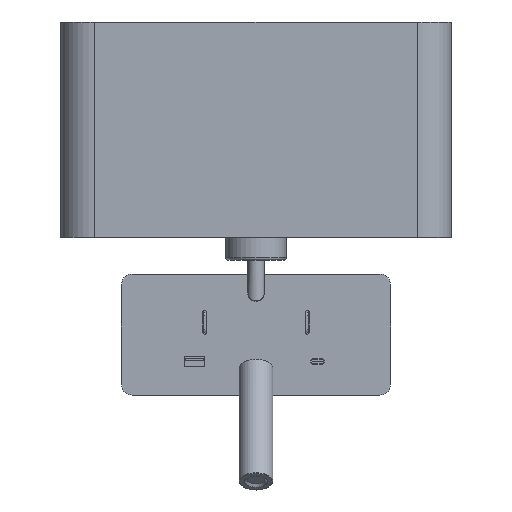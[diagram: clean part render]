
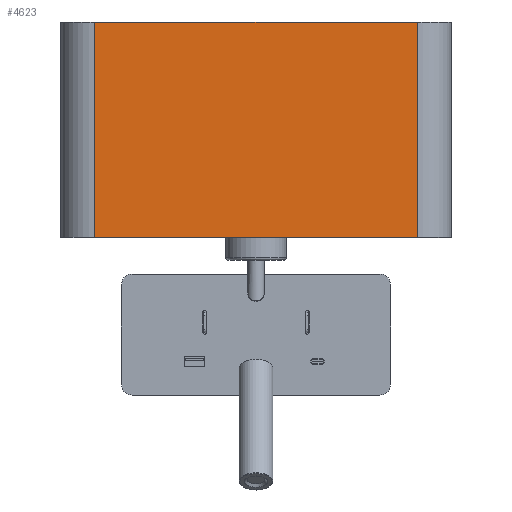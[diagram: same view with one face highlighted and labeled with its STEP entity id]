
A CAD part, top view. The second image highlights one B-rep face of the part: STEP entity #4623.
In plain terms, the highlighted planar face has unit normal (0, 0, 1).
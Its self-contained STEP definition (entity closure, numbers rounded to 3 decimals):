
#13 = CARTESIAN_POINT ( 'NONE',  ( 120., 20., 90. ) ) ;
#125 = VERTEX_POINT ( 'NONE', #2410 ) ;
#126 = LINE ( 'NONE', #1656, #3259 ) ;
#335 = ORIENTED_EDGE ( 'NONE', *, *, #4260, .T. ) ;
#526 = DIRECTION ( 'NONE',  ( 0., 1., 0. ) ) ;
#1038 = DIRECTION ( 'NONE',  ( 0., 1., 0. ) ) ;
#1046 = DIRECTION ( 'NONE',  ( 0., 0., 1. ) ) ;
#1321 = AXIS2_PLACEMENT_3D ( 'NONE', #4062, #1046, #2484 ) ;
#1489 = EDGE_LOOP ( 'NONE', ( #3698, #4811, #335, #1739 ) ) ;
#1656 = CARTESIAN_POINT ( 'NONE',  ( -120., -140., 90. ) ) ;
#1658 = DIRECTION ( 'NONE',  ( 1., 0., 0. ) ) ;
#1739 = ORIENTED_EDGE ( 'NONE', *, *, #2785, .T. ) ;
#2038 = CARTESIAN_POINT ( 'NONE',  ( -120., 20., 90. ) ) ;
#2067 = EDGE_CURVE ( 'NONE', #125, #4849, #4392, .T. ) ;
#2410 = CARTESIAN_POINT ( 'NONE',  ( -120., 20., 90. ) ) ;
#2421 = VERTEX_POINT ( 'NONE', #2915 ) ;
#2484 = DIRECTION ( 'NONE',  ( 1., 0., 0. ) ) ;
#2785 = EDGE_CURVE ( 'NONE', #4234, #4849, #3703, .T. ) ;
#2915 = CARTESIAN_POINT ( 'NONE',  ( -120., -140., 90. ) ) ;
#3219 = DIRECTION ( 'NONE',  ( 1., 0., 0. ) ) ;
#3259 = VECTOR ( 'NONE', #526, 1000. ) ;
#3435 = VECTOR ( 'NONE', #1038, 1000. ) ;
#3522 = LINE ( 'NONE', #3913, #4914 ) ;
#3556 = EDGE_CURVE ( 'NONE', #2421, #125, #126, .T. ) ;
#3698 = ORIENTED_EDGE ( 'NONE', *, *, #2067, .F. ) ;
#3703 = LINE ( 'NONE', #4079, #3435 ) ;
#3913 = CARTESIAN_POINT ( 'NONE',  ( -120., -140., 90. ) ) ;
#4031 = FACE_OUTER_BOUND ( 'NONE', #1489, .T. ) ;
#4062 = CARTESIAN_POINT ( 'NONE',  ( -120., -140., 90. ) ) ;
#4079 = CARTESIAN_POINT ( 'NONE',  ( 120., -140., 90. ) ) ;
#4234 = VERTEX_POINT ( 'NONE', #4283 ) ;
#4260 = EDGE_CURVE ( 'NONE', #2421, #4234, #3522, .T. ) ;
#4283 = CARTESIAN_POINT ( 'NONE',  ( 120., -140., 90. ) ) ;
#4362 = VECTOR ( 'NONE', #3219, 1000. ) ;
#4392 = LINE ( 'NONE', #2038, #4362 ) ;
#4623 = ADVANCED_FACE ( 'NONE', ( #4031 ), #4822, .T. ) ;
#4811 = ORIENTED_EDGE ( 'NONE', *, *, #3556, .F. ) ;
#4822 = PLANE ( 'NONE',  #1321 ) ;
#4849 = VERTEX_POINT ( 'NONE', #13 ) ;
#4914 = VECTOR ( 'NONE', #1658, 1000. ) ;
